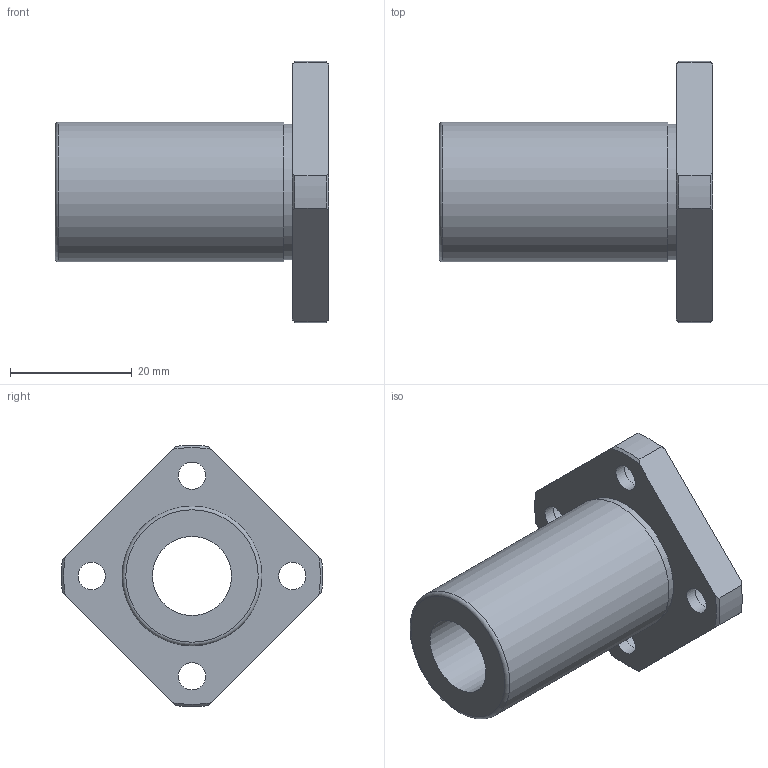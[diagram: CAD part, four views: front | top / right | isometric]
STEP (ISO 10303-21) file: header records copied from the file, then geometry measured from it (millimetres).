
FILE_DESCRIPTION(('STEP AP203'),'1');
FILE_NAME('//192.168.1.1/share/s-4 技術開発/s-4-4_CAD/s-4-4-3_見直し済み/002 修正済み/NFES-VM(済)/NFES-VM_TOP/NFES-13VM.step','2022-03-08T01:17:04',(' '),(' '),'Spatial InterOp 3D',' ',' ');
FILE_SCHEMA(('CONFIG_CONTROL_DESIGN'));
Length unit declared in the file: millimetre
Products named in the file (1): 1
Bounding box: 45 x 42.96 x 42.96 mm (x, y, z)
Volume: 16115.3 mm3; surface area: 7793.7 mm2
Topology: 1 solids, 1 shells, 36 faces, 91 edges, 63 vertices
Faces by surface type: cylinder 15, plane 12, cone 8, torus 1
Full cylindrical faces by diameter (mm): 4.5 x4, 7.5 x4, 13 x1, 22.3 x1, 23 x1
Entity records: 1026 total; most frequent: CARTESIAN_POINT 195, DIRECTION 168, ORIENTED_EDGE 142, AXIS2_PLACEMENT_3D 76, EDGE_CURVE 71, EDGE_LOOP 64, VERTEX_POINT 55, FACE_OUTER_BOUND 48
